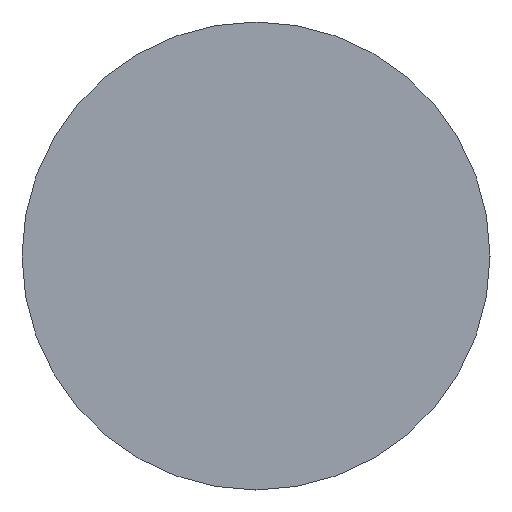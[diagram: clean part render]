
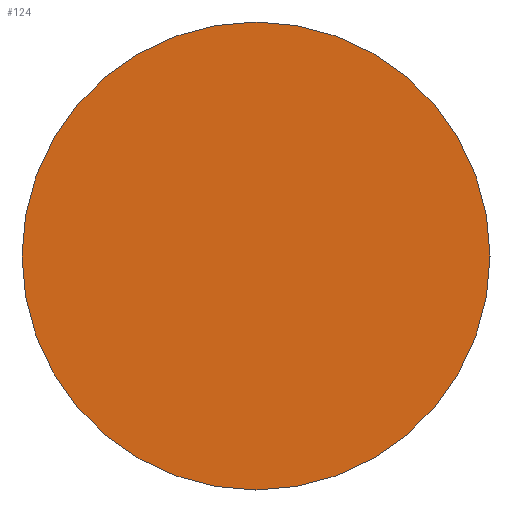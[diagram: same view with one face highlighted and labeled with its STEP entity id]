
A CAD part, left-side view. The second image highlights one B-rep face of the part: STEP entity #124.
In plain terms, the highlighted planar face has unit normal (-1, 0, 0).
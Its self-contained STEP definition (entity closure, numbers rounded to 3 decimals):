
#5 = AXIS2_PLACEMENT_3D ( 'NONE', #137, #469, #237 ) ;
#21 = DIRECTION ( 'NONE',  ( 0., 0., -1. ) ) ;
#124 = ADVANCED_FACE ( 'NONE', ( #194 ), #450, .F. ) ;
#125 = CARTESIAN_POINT ( 'NONE',  ( -84., 0., 0. ) ) ;
#137 = CARTESIAN_POINT ( 'NONE',  ( -84., 0., 0. ) ) ;
#174 = VERTEX_POINT ( 'NONE', #238 ) ;
#194 = FACE_OUTER_BOUND ( 'NONE', #383, .T. ) ;
#204 = ORIENTED_EDGE ( 'NONE', *, *, #448, .T. ) ;
#213 = DIRECTION ( 'NONE',  ( 0., 0., 1. ) ) ;
#223 = CIRCLE ( 'NONE', #301, 7. ) ;
#237 = DIRECTION ( 'NONE',  ( 0., 0., 1. ) ) ;
#238 = CARTESIAN_POINT ( 'NONE',  ( -84., 0., -7. ) ) ;
#250 = CARTESIAN_POINT ( 'NONE',  ( -84., 0., 7. ) ) ;
#277 = DIRECTION ( 'NONE',  ( -1., 0., 0. ) ) ;
#297 = AXIS2_PLACEMENT_3D ( 'NONE', #371, #373, #21 ) ;
#301 = AXIS2_PLACEMENT_3D ( 'NONE', #125, #277, #213 ) ;
#311 = VERTEX_POINT ( 'NONE', #250 ) ;
#312 = EDGE_CURVE ( 'NONE', #311, #174, #410, .T. ) ;
#371 = CARTESIAN_POINT ( 'NONE',  ( -84., 7., 0. ) ) ;
#373 = DIRECTION ( 'NONE',  ( 1., 0., 0. ) ) ;
#383 = EDGE_LOOP ( 'NONE', ( #394, #204 ) ) ;
#394 = ORIENTED_EDGE ( 'NONE', *, *, #312, .T. ) ;
#410 = CIRCLE ( 'NONE', #5, 7. ) ;
#448 = EDGE_CURVE ( 'NONE', #174, #311, #223, .T. ) ;
#450 = PLANE ( 'NONE',  #297 ) ;
#469 = DIRECTION ( 'NONE',  ( -1., 0., 0. ) ) ;
